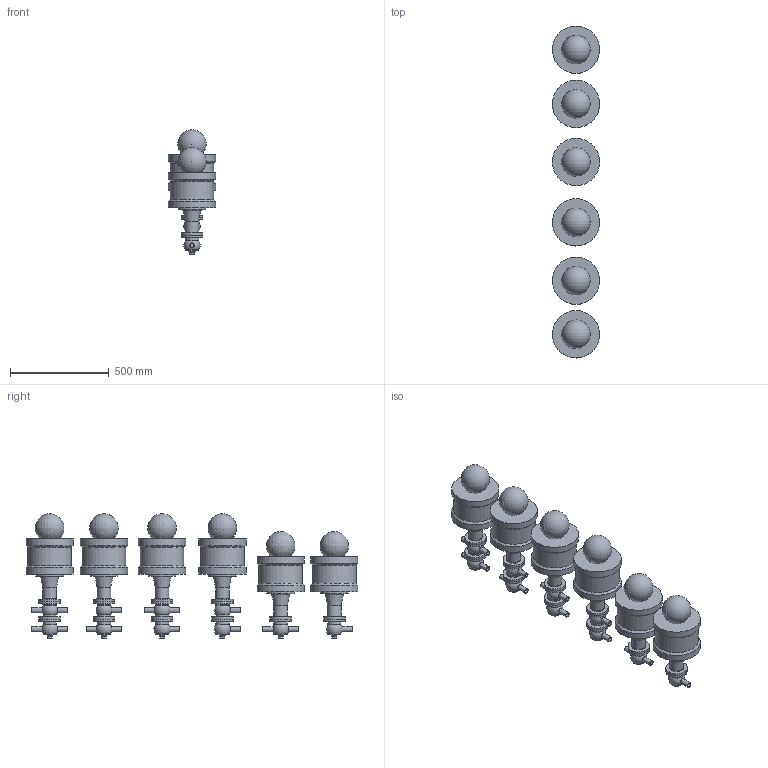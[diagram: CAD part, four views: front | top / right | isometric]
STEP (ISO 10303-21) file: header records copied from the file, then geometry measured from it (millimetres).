
FILE_DESCRIPTION(/* description */ (''),/* implementation_level */ '2;1');
FILE_NAME(/* name */ 'C:\Users\marz-m\Desktop\PDF\BBZQ 3D STEP\BBZQ-DN254-CIL.207.stp',/* time_stamp */ '2018-04-13T14:26:03+02:00',/* author */ ('marz-m'),/* organization */ (''),/* preprocessor_version */ 'ST-DEVELOPER v17',/* originating_system */ 'Autodesk Inventor 2018',/* authorisation */ '');
FILE_SCHEMA (('AUTOMOTIVE_DESIGN { 1 0 10303 214 3 1 1 }'));
Length unit declared in the file: millimetre
Products named in the file (8): BBZQ-CIL.207-DN254; COR-INF-L-BBZQ-DN025(28X3)-SALD; COR-INF-T-BBZQ-DN025(28X2.5)-SALD; assemblaggio dn40 per cil 207-360; CILINDRO 207; SAGOMA-GIOTTO-; CORPO-SUP-BBZQ-L-DN254-SALD; CORPO-SUP-BBZQ-T-DN254-SALD
Assembly tree (28 placements, depth 2):
  BBZQ-CIL.207-DN254
    COR-INF-L-BBZQ-DN025(28X3)-SALD  x3
    COR-INF-T-BBZQ-DN025(28X2.5)-SALD  x3
    assemblaggio dn40 per cil 207-360  x6
    CILINDRO 207  x6
    SAGOMA-GIOTTO-  x6
    CORPO-SUP-BBZQ-L-DN254-SALD  x2
    CORPO-SUP-BBZQ-T-DN254-SALD  x2
Bounding box: 240 x 1683.44 x 630.47 mm (x, y, z)
Volume: 62821751.6 mm3; surface area: 2764014.4 mm2
Topology: 28 solids, 28 shells, 326 faces, 750 edges, 554 vertices
Faces by surface type: cylinder 124, plane 115, torus 32, sphere 31, cone 24
Full cylindrical faces by diameter (mm): 20.4 x21, 25.4 x27, 68 x20, 69 x6, 69.8 x6, 109 x20, 141 x6, 221 x6, 240 x12
Entity records: 3325 total; most frequent: DIRECTION 653, CARTESIAN_POINT 507, ORIENTED_EDGE 430, AXIS2_PLACEMENT_3D 305, EDGE_CURVE 215, CIRCLE 172, VERTEX_POINT 159, EDGE_LOOP 124
